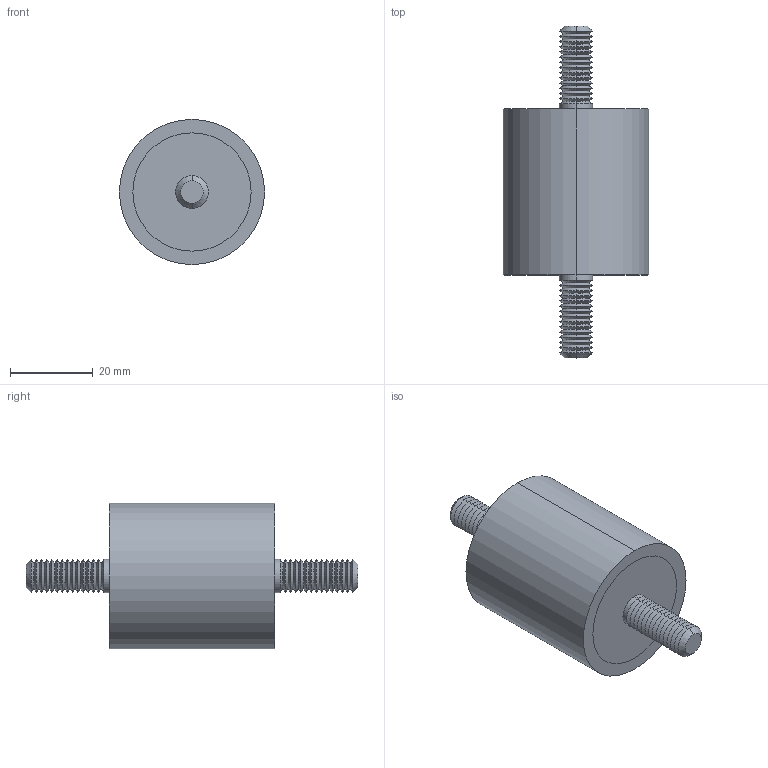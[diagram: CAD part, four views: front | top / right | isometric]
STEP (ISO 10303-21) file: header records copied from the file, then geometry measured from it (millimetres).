
FILE_DESCRIPTION (( 'STEP AP203' ), '1' );
FILE_NAME ('61040.W0351.step', '2019-09-24T22:34:22', ( '' ), ( '' ), 'SwSTEP 2.0', 'SolidWorks 2017', '' );
FILE_SCHEMA (( 'CONFIG_CONTROL_DESIGN' ));
Length unit declared in the file: millimetre
Products named in the file (4): 61040.W0351; Part3_61040.W0351; Part2_61040.W0351; Part1_61040.W0351
Assembly tree (3 placements, depth 2):
  61040.W0351
    Part1_61040.W0351
    Part2_61040.W0351
    Part3_61040.W0351
Bounding box: 35 x 80 x 35 mm (x, y, z)
Volume: 40026.8 mm3; surface area: 11017.4 mm2
Topology: 3 solids, 3 shells, 140 faces, 274 edges, 144 vertices
Faces by surface type: cone 116, cylinder 14, plane 10
Entity records: 3908 total; most frequent: DIRECTION 710, CARTESIAN_POINT 564, ORIENTED_EDGE 548, AXIS2_PLACEMENT_3D 290, EDGE_CURVE 274, CIRCLE 144, EDGE_LOOP 144, VERTEX_POINT 144
